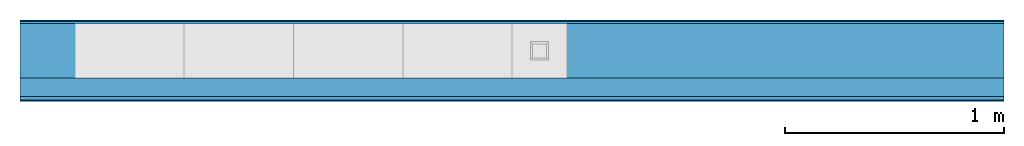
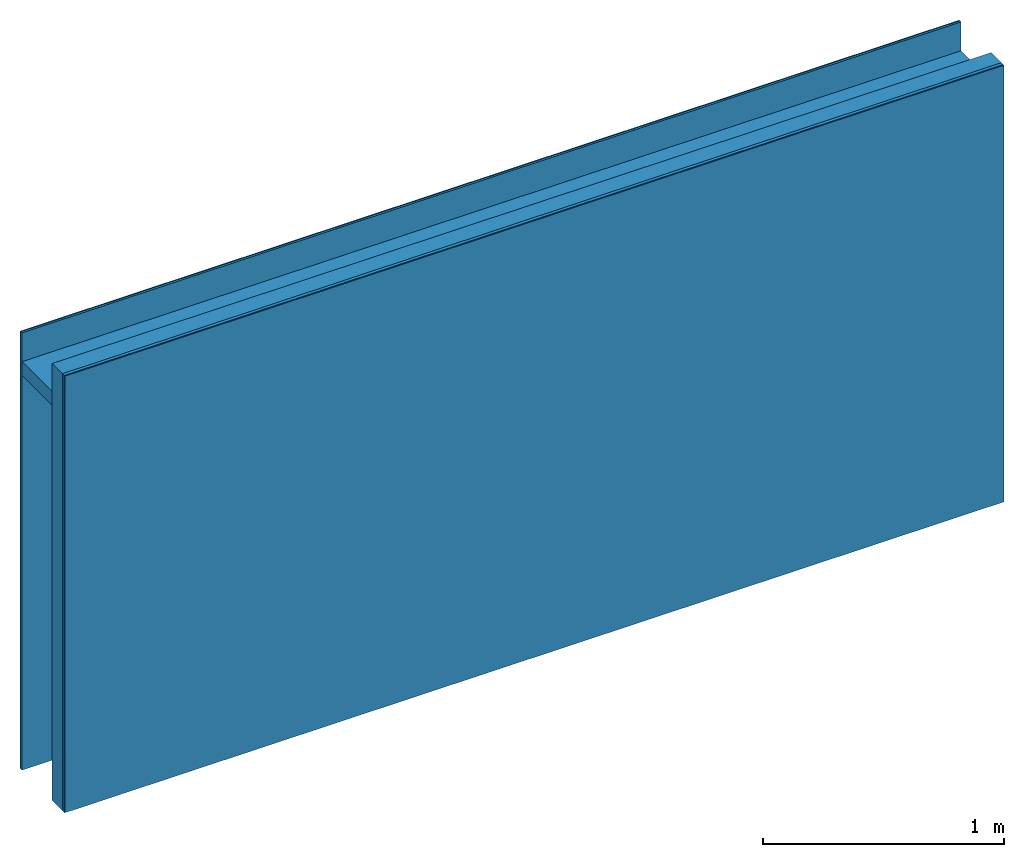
# One storey, incomplete: 5 building element parts, 1 wall, 2 elements without a shape of their own.
"""IFC4 building model written with IfcOpenShell, lengths in centimetres."""

from ifc_helpers import new_model, entity, si_unit, converted_unit, direction, frame, origin, place, context, subcontext, project, spatial, indexed_curve, outline, extrude, material, type_object, element, aggregate, save


model = new_model("IFC4")

# Units and contexts
model_context = context("Model", 3, precision=0.001, world=origin(), true_north=direction((0.0, 1.0)))
body_context = subcontext(model_context, "Body", "Model", "MODEL_VIEW")
ifc_project = project(units=[si_unit("LENGTHUNIT", "METRE", prefix="CENTI"), si_unit("AREAUNIT", "SQUARE_METRE"), si_unit("VOLUMEUNIT", "CUBIC_METRE"), converted_unit("PLANEANGLEUNIT", "DEGREE", entity("IfcPlaneAngleMeasure", 0.017453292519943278), si_unit("PLANEANGLEUNIT", "RADIAN"), dimensions=[0, 0, 0, 0, 0, 0, 0])], contexts=[model_context])

# Site, building, storey
site_placement = place(None, origin())
site = spatial("IfcSite", under=ifc_project, at=site_placement, Name="Default", CompositionType="ELEMENT")
building_placement = place(site_placement, origin())
building = spatial("IfcBuilding", under=site, at=building_placement, CompositionType="ELEMENT")
storey_placement = place(building_placement, frame((0.0, 0.0, 558.0)))
storey = spatial("IfcBuildingStorey", under=building, at=storey_placement, Name="L02__ABOVE Slab", CompositionType="ELEMENT", Elevation=557.9999999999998)

# Wall
ifc_material_1 = material(Name="_STRUCTURE__Wood Solid")
wall_type_1 = type_object("IfcWallType", Name="Columns : wll_s__DECOUPLING BEAM__Rectangular__wp : Wood", PredefinedType="SOLIDWALL", material=ifc_material_1)
wall_1_placement = place(storey_placement, frame((4816.781063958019, 696.0243584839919, 273.0)))
element("IfcWall", 1, at=wall_1_placement, inside=storey, type_object=wall_type_1, material=ifc_material_1, Name="Columns : wll_s__DECOUPLING BEAM__Rectangular__wp : Wood", PredefinedType="SOLIDWALL", context=body_context, shape_type="SweptSolid", body=[
    extrude(outline(indexed_curve([(-12.500000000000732, -224.99999999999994), (12.499999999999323, -224.99999999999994), (12.500000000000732, 224.99999999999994), (-12.499999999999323, 224.99999999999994), (-12.500000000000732, -224.99999999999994)], self_intersect=False)), frame((225.0, 12.500000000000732, 0.0), z_axis=(0.0, 0.0, 1.0), x_axis=(0.0, -1.0, 0.0)), (0.0, 0.0, 1.0), 6.9999999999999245),
])

# Wall, building element parts
wall_type_2 = type_object("IfcWallType", Name="Walls : Basic Wall : wll__EXT ENCLOSURE__Spritzkork, Wood Insulation 10.6cm__TriqBriq, FS.3 3", PredefinedType="STANDARD")
wall_2_placement = place(storey_placement, frame((5266.7810639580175, 690.7243584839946, 73.0), z_axis=(0.0, 0.0, 1.0), x_axis=(-1.0, 0.0, 0.0)))
wall_2 = element("IfcWall", 2, at=wall_2_placement, inside=storey, type_object=wall_type_2, Name="Walls : Basic Wall : wll__EXT ENCLOSURE__Spritzkork, Wood Insulation 10.6cm__TriqBriq, FS.3 3", PredefinedType="NOTDEFINED")
ifc_material_2 = material(Name="Default Wall", Category="Miscellaneous")
building_element_part_1_placement = place(wall_2_placement, origin())
building_element_part_1 = element("IfcBuildingElementPart", 3, at=building_element_part_1_placement, material=ifc_material_2, Name="Default Wall", context=body_context, shape_type="SweptSolid", body=[
    extrude(outline(indexed_curve([(-0.7500000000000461, -225.04999999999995), (0.7499999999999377, -225.04999999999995), (0.7500000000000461, 225.0500000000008), (-0.7499999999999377, 225.0500000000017), (-0.7500000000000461, -225.04999999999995)], self_intersect=False)), frame((225.05000000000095, 3.9500000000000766, 0.0), z_axis=(0.0, 0.0, 1.0), x_axis=(0.0, 1.0, 0.0)), (0.0, 0.0, 1.0), 221.24728839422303),
])
ifc_material_3 = material(Name="_FCD LAYERS__Insulation__Wood-fiber__Steico", Category="Unassigned")
building_element_part_2_placement = place(wall_2_placement, origin())
building_element_part_2 = element("IfcBuildingElementPart", 4, at=building_element_part_2_placement, material=ifc_material_3, Name="_FCD LAYERS__Insulation__Wood-fiber__Steico", context=body_context, shape_type="SweptSolid", body=[
    extrude(outline(indexed_curve([(-4.250000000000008, -225.04999999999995), (4.2499999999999, -225.04999999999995), (4.250000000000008, 225.0500000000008), (-4.250000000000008, 225.0500000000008), (-4.250000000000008, -225.04999999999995)], self_intersect=False)), frame((225.05000000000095, -1.0499999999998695, 0.0), z_axis=(0.0, 0.0, 1.0), x_axis=(0.0, 1.0, 0.0)), (0.0, 0.0, 1.0), 221.24728839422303),
])
ifc_material_4 = material(Name="_FCD FINISH__Spray-cork", Category="Concrete")
building_element_part_3_placement = place(wall_2_placement, origin())
building_element_part_3 = element("IfcBuildingElementPart", 5, at=building_element_part_3_placement, material=ifc_material_4, Name="_FCD FINISH__Spray-cork", context=body_context, shape_type="SweptSolid", body=[
    extrude(outline(indexed_curve([(-0.30000000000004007, -225.04999999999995), (0.30000000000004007, -225.04999999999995), (0.30000000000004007, 225.0500000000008), (-0.29999999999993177, 225.0500000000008), (-0.30000000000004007, -225.04999999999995)], self_intersect=False)), frame((225.05000000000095, 5.0, 0.0), z_axis=(0.0, 0.0, 1.0), x_axis=(0.0, 1.0, 0.0)), (0.0, 0.0, 1.0), 221.24728839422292),
])
aggregate(wall_2, [building_element_part_1, building_element_part_2, building_element_part_3])

wall_type_3 = type_object("IfcWallType", Name="Walls : Basic Wall : wll__INT FINISH__Spritzkork, Lime - CEM Plaster 2.4cm TRIQBRIQ", PredefinedType="STANDARD")
wall_3_placement = place(storey_placement, frame((4816.681063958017, 721.8243584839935, 73.0)))
wall_3 = element("IfcWall", 6, at=wall_3_placement, inside=storey, type_object=wall_type_3, Name="Walls : Basic Wall : wll__INT FINISH__Spritzkork, Lime - CEM Plaster 2.4cm TRIQBRIQ", PredefinedType="NOTDEFINED")
ifc_material_5 = material(Name="_FCD LAYERS__Insulation__EPS 120__Austrotherm EPS A120")
building_element_part_4_placement = place(wall_3_placement, origin())
building_element_part_4 = element("IfcBuildingElementPart", 7, at=building_element_part_4_placement, material=ifc_material_5, Name="_FCD LAYERS__Insulation__EPS 120__Austrotherm EPS A120", context=body_context, shape_type="SweptSolid", body=[
    extrude(outline(indexed_curve([(-0.49999999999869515, -225.04999999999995), (0.5000000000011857, -225.04999999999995), (0.49999999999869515, 225.0500000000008), (-0.5000000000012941, 225.0500000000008), (-0.49999999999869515, -225.04999999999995)], self_intersect=False)), frame((225.04999999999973, -0.30000000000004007, 0.0), z_axis=(0.0, 0.0, 1.0), x_axis=(0.0, -1.0, 0.0)), (0.0, 0.0, 1.0), 221.5879248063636),
])
ifc_material_6 = material(Name="_WLL & CLG FINISHES__Lime - CEM Plaster", Category="Unassigned")
building_element_part_5_placement = place(wall_3_placement, origin())
building_element_part_5 = element("IfcBuildingElementPart", 8, at=building_element_part_5_placement, material=ifc_material_6, Name="_WLL & CLG FINISHES__Lime - CEM Plaster", context=body_context, shape_type="SweptSolid", body=[
    extrude(outline(indexed_curve([(-0.29999999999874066, -225.04999999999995), (0.30000000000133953, -225.04999999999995), (0.29999999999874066, 225.0500000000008), (-0.3000000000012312, 225.0500000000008), (-0.29999999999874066, -225.04999999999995)], self_intersect=False)), frame((225.04999999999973, 0.4999999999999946, 0.0), z_axis=(0.0, 0.0, 1.0), x_axis=(0.0, -1.0, 0.0)), (0.0, 0.0, 1.0), 221.5879248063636),
])
aggregate(wall_3, [building_element_part_4, building_element_part_5])

save(model, "model.ifc")
